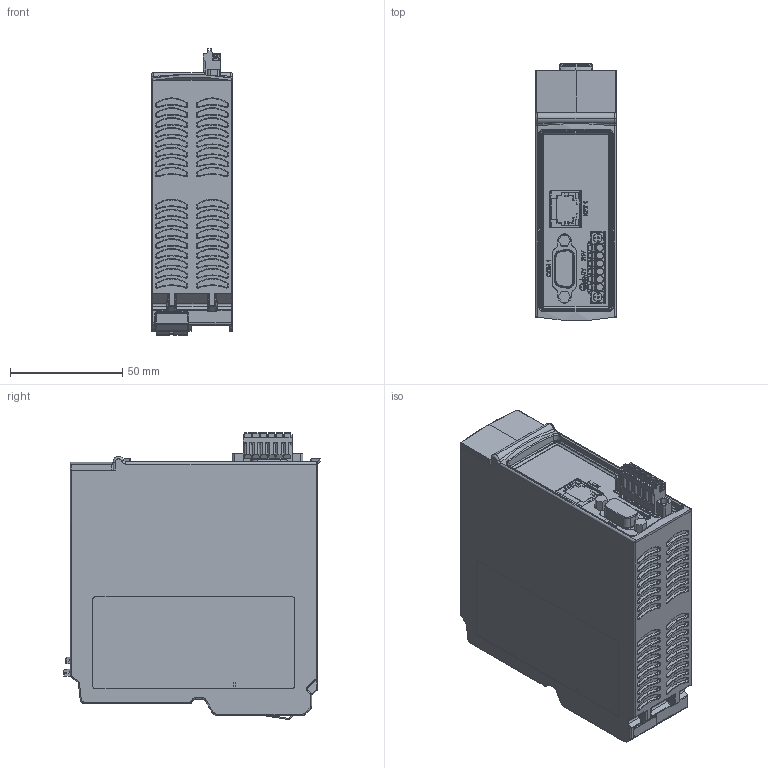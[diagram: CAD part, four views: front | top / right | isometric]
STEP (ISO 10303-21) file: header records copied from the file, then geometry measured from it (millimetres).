
FILE_DESCRIPTION (( 'STEP AP214' ), '1' );
FILE_NAME ('NX3004_20150626.STEP', '2015-06-29T14:40:50', ( 'ALTUS' ), ( '' ), 'SwSTEP 2.0', 'SolidWorks 2011', '' );
FILE_SCHEMA (( 'AUTOMOTIVE_DESIGN' ));
Length unit declared in the file: millimetre
Products named in the file (1): NX3004_20150626
Bounding box: 36 x 114.46 x 127.79 mm (x, y, z)
Volume: 406235.5 mm3; surface area: 55484.7 mm2
Topology: 1 solids, 10 shells, 2957 faces, 7563 edges, 4739 vertices
Faces by surface type: plane 1227, bspline 711, cylinder 550, torus 240, cone 219, sphere 10
Entity records: 135158 total; most frequent: CARTESIAN_POINT 36424, ORIENTED_EDGE 15088, DIRECTION 12076, EDGE_CURVE 7544, VERTEX_POINT 4737, AXIS2_PLACEMENT_3D 4216, LINE 3644, VECTOR 3644
